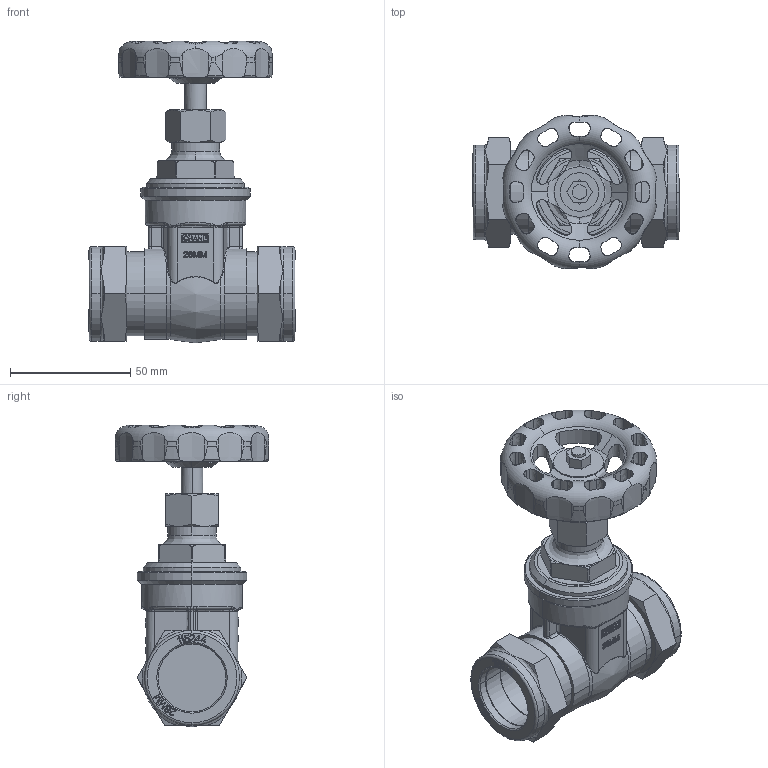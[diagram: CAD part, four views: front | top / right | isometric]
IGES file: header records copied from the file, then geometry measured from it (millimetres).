
Global section: file name: No Iges File Name specified; native system: AutoDesk Inventor R12.0; preprocessor: AutoDesk Inventor Iges Exporter R12.0; date: 20110311.142223; units: millimetre
Bounding box: 85.84 x 63.81 x 125.63 mm (x, y, z)
Volume: 147295.6 mm3; surface area: 41172.7 mm2
Topology: 1 solids, 3 shells, 1142 faces, 3165 edges, 2065 vertices
Faces by surface type: plane 495, bspline 299, revolution 160, cylinder 102, cone 52, torus 34
